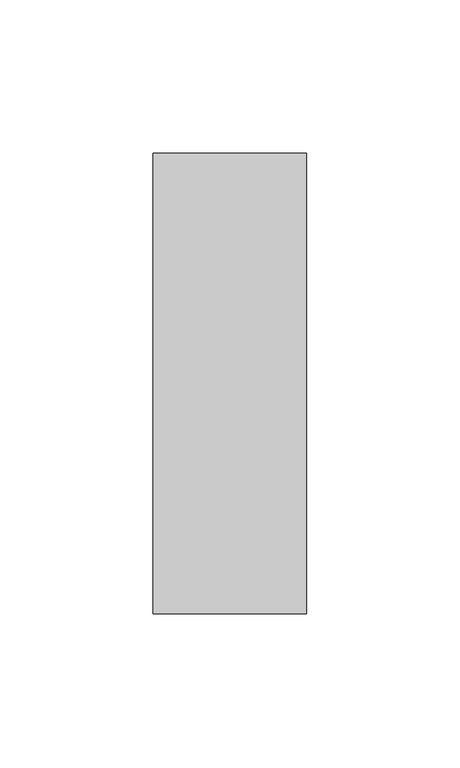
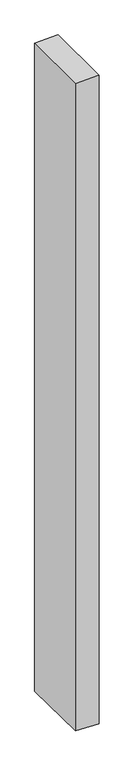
"""IFC4 building model written with IfcOpenShell, lengths in millimetres: member geometry, Прямоугольный импост : 50 x 150 мм."""

from ifc_helpers import new_model, si_unit, origin, place, context, project, spatial, faceted_brep, source, transform, mapped, element, save


def member_1a7f991f(model_context):
    return source(origin(), model_context, "Body", "Brep", [
        faceted_brep([(-25.0, 75.0, -0.8218969), (25.0, 75.0, 0.8775065), (25.0, 75.0, -1458.6105638), (-25.0, 75.0, -1456.6654616), (-25.0, -75.0, -0.8775065), (-25.0, -75.0, -1454.6288081), (25.0, -75.0, 0.8218969), (25.0, -75.0, -1456.5739103)], [[[0, 1, 2, 3]], [[4, 0, 3, 5]], [[6, 4, 5, 7]], [[1, 6, 7, 2]], [[1, 0, 4, 6]], [[2, 7, 5, 3]]]),
    ])


if __name__ == "__main__":
    model = new_model("IFC4")
    model_context = context("Model", 3, world=origin())
    ifc_project = project(units=[si_unit("LENGTHUNIT", "METRE", prefix="MILLI")], contexts=[model_context])
    site = spatial("IfcSite", under=ifc_project)
    building = spatial("IfcBuilding", under=site)
    placement = place(None, origin())
    member_shape = member_1a7f991f(model_context)
    element("IfcMember", 1, ObjectType="Прямоугольный импост : 50 x 150 мм", at=placement, inside=building, context=model_context, shape_type="MappedRepresentation", body=[
        mapped(member_shape, transform((0.0, 0.0, 0.0), x_axis=(1.0, 0.0, 0.0), y_axis=(0.0, 1.0, 0.0), z_axis=(0.0, 0.0, 1.0))),
    ])
    save(model, "model.ifc")
